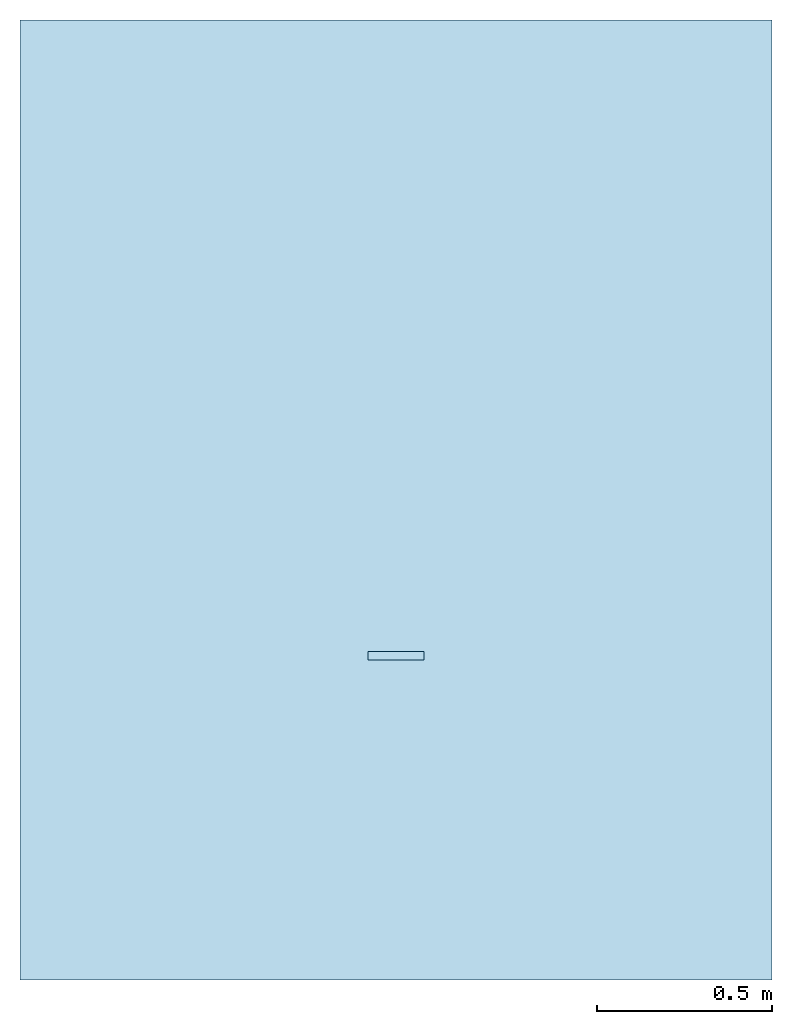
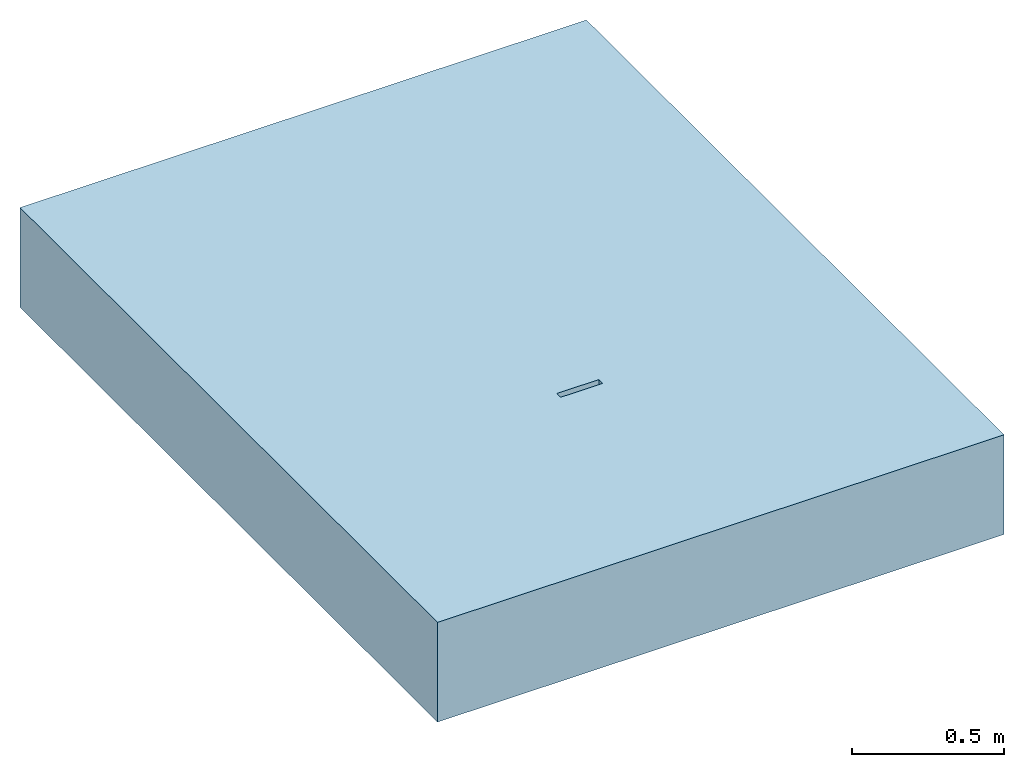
# One storey: 1 slab, 3 openings.
"""IFC2X3 building model written with IfcOpenShell, lengths in millimetres."""

from ifc_helpers import new_model, entity, si_unit, converted_unit, direction, frame, frame_2d, origin, place, context, subcontext, project, spatial, polyline, rectangle, outline, extrude, material, layer, layer_set, layer_usage, element, save


model = new_model("IFC2X3")

# Units and contexts
model_context = context("Model", 3, precision=1e-06, world=origin(), true_north=direction((2.0, 6.12303176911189e-17, 1.0)))
context_of_model = context(None, 3, precision=1e-06, world=origin(), true_north=direction((2.0, 6.12303176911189e-17, 1.0)))
body_context = subcontext(model_context, "Body", "Model", "MODEL_VIEW")
ifc_project = project(units=[si_unit("LENGTHUNIT", "METRE", prefix="MILLI"), si_unit("AREAUNIT", "SQUARE_METRE", prefix="MILLI"), si_unit("VOLUMEUNIT", "CUBIC_METRE", prefix="MILLI"), converted_unit("PLANEANGLEUNIT", "DEGREE", entity("IfcRatioMeasure", 0.0174532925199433), si_unit("PLANEANGLEUNIT", "RADIAN"), dimensions=[0, 0, 0, 0, 0, 0, 0]), si_unit("TIMEUNIT", "SECOND")], contexts=[model_context, context_of_model])

# Site, building, storey
site_placement = place(None, origin())
site = spatial("IfcSite", under=ifc_project, at=site_placement, Name="Default", CompositionType="ELEMENT")
building_placement = place(site_placement, origin())
building = spatial("IfcBuilding", under=site, at=building_placement, CompositionType="ELEMENT")
storey_placement = place(building_placement, origin())
storey = spatial("IfcBuildingStorey", under=building, at=storey_placement, Name="Level 1", CompositionType="ELEMENT", Elevation=0.0)

# Slab, openings
ifc_material = material(Name="Earth")
ifc_layer = layer(ifc_material, 400.0)
ifc_layer_set = layer_set([ifc_layer], Name="Floor:Generic Floor - 400mm")
ifc_layer_usage = layer_usage(ifc_layer_set, "AXIS3", "POSITIVE", 0.0)
slab_placement = place(storey_placement, frame((-6757.99544306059, -11162.1166238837, -400.0)))
slab = element("IfcSlab", 1, at=slab_placement, inside=storey, material=ifc_layer_usage, Name="Floor:Generic Floor - 400mm", ObjectType="Floor:Generic Floor - 400mm", PredefinedType="FLOOR", context=body_context, shape_type="SweptSolid", body=[
    extrude(rectangle(XDim=2745.0, YDim=2150.0, at=frame_2d((0.0, 0.0), x_axis=(0.0, 1.0))), frame((1075.0, 1372.5, 400.0), z_axis=(0.0, 0.0, -1.0), x_axis=(-1.0, 0.0, 0.0)), (0.0, 0.0, 1.0), 400.0),
])
opening_1_placement = place(slab_placement, origin())
element("IfcOpeningElement", 2, at=opening_1_placement, cuts=slab, ObjectType="Opening", context=body_context, shape_type="SweptSolid", body=[
    extrude(outline(polyline([(65.8692335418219, -8.50441207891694), (113.585231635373, -8.50441207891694), (-39.670815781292, 115.404016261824), (-132.09264862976, 1.0921410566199), (-7.69100076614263, -99.4873331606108), (65.8692335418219, -8.50441207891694)])), frame((1000.0, 1029.8, -1496.59390446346), z_axis=(1.0, 0.0, 0.0), x_axis=(0.0, -0.628719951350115, 0.777631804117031)), (0.0, 0.0, 1.0), 1.99999999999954),
])
opening_2_placement = place(slab_placement, origin())
element("IfcOpeningElement", 3, at=opening_2_placement, cuts=slab, ObjectType="Opening", context=body_context, shape_type="SweptSolid", body=[
    extrude(outline(polyline([(-243.499999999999, -75.0), (243.499999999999, -75.0), (250.0, 75.0), (-250.0, 75.0), (-243.499999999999, -75.0)])), frame((1075.0, 1165.0, -2070.0), z_axis=(0.0, 0.0, 1.0), x_axis=(0.0, -1.0, 0.0)), (0.0, 0.0, 1.0), 4.99999999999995),
])
opening_3_placement = place(slab_placement, origin())
element("IfcOpeningElement", 4, at=opening_3_placement, cuts=slab, ObjectType="Opening", context=body_context, shape_type="SweptSolid", body=[
    extrude(outline(polyline([(32.2222222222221, -204.652430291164), (57.2222222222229, -204.652430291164), (57.2222222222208, 145.347569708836), (32.2222222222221, 145.347569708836), (32.2222222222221, 127.342621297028), (-122.777777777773, 127.342621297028), (-122.777777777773, -33.025173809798), (2.22222222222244, -33.025173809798), (32.2222222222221, -70.0251738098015), (32.2222222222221, -204.652430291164)])), frame((995.0, 972.222222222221, 195.347569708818), z_axis=(1.0, 0.0, 0.0), x_axis=(0.0, -1.0, 0.0)), (0.0, 0.0, 1.0), 160.0),
])

save(model, "model.ifc")
